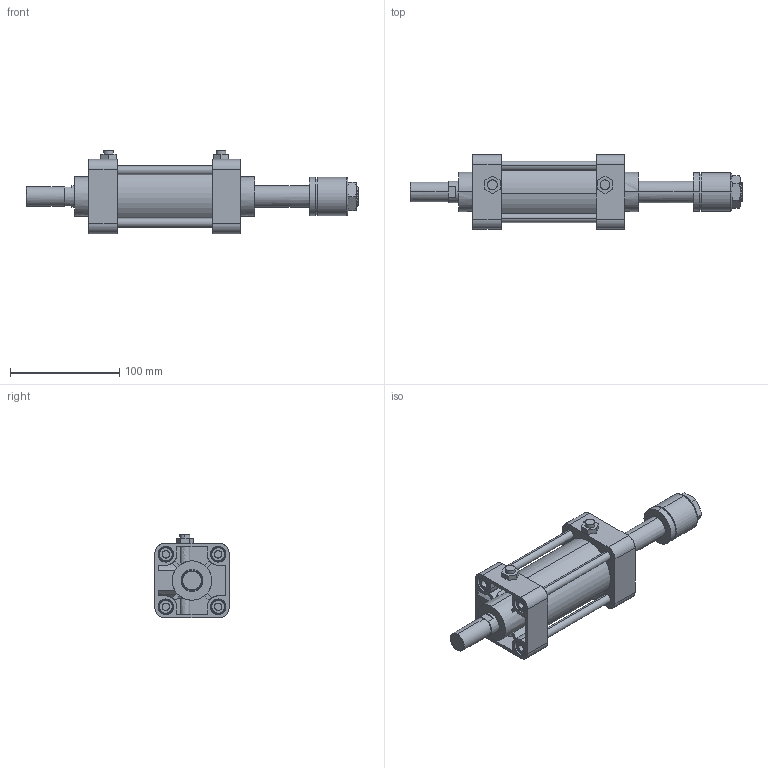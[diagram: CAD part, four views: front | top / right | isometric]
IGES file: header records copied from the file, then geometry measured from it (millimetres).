
Start section: SolidWorks IGES file using analytic representation for surfaces
Global section: file name: C:\Users\Toshiba\Desktop\KGA7-50#-50-N.IGS; native system: SolidWorks 2014; preprocessor: SolidWorks 2014; author: Toshiba; date: 160414.155017; units: millimetre
Bounding box: 304 x 68 x 76.3 mm (x, y, z)
Surface area: 115254 mm2 (no closed solid volume)
Topology: 0 solids, 0 shells, 379 faces, 6085 edges, 6081 vertices
Faces by surface type: bspline 209, revolution 170
